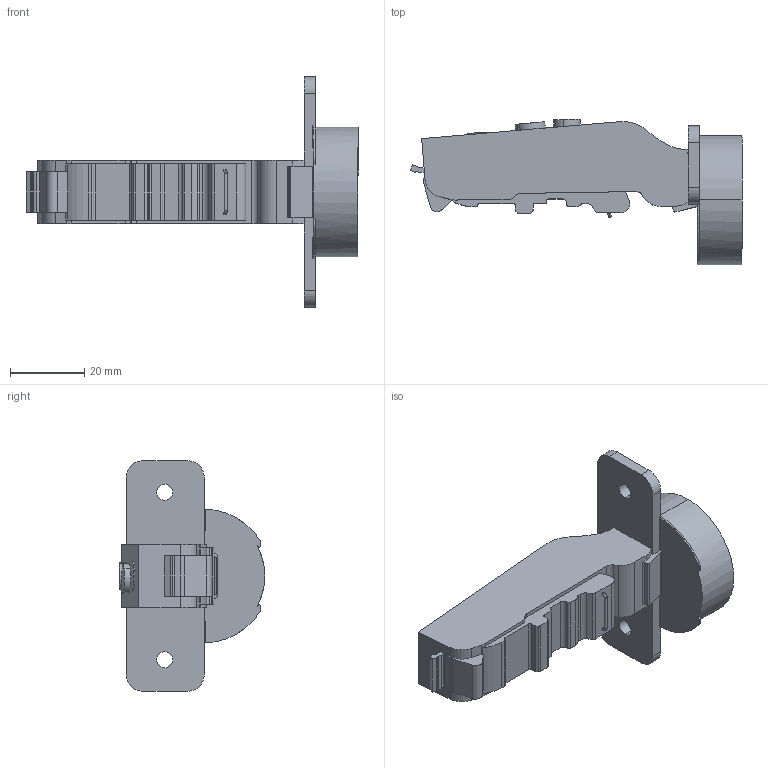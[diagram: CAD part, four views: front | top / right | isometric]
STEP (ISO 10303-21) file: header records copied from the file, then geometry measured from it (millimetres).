
FILE_DESCRIPTION (( 'STEP AP203' ), '1' );
FILE_NAME ('C81A875FAB-DTC3Dclose.STEP', '2023-06-09T05:20:36', ( 'Windows 蚚誧' ), ( '' ), 'SwSTEP 2.0', 'SolidWorks 2018', '' );
FILE_SCHEMA (( 'CONFIG_CONTROL_DESIGN' ));
Length unit declared in the file: millimetre
Products named in the file (1): C81A875FAB-DTC3Dclose
Bounding box: 89.32 x 39.16 x 62 mm (x, y, z)
Volume: 38857.3 mm3; surface area: 11097.2 mm2
Topology: 1 solids, 1 shells, 150 faces, 438 edges, 292 vertices
Faces by surface type: cylinder 75, plane 64, bspline 9, torus 2
Entity records: 5651 total; most frequent: CARTESIAN_POINT 1544, ORIENTED_EDGE 876, DIRECTION 836, EDGE_CURVE 438, VERTEX_POINT 292, AXIS2_PLACEMENT_3D 292, LINE 252, VECTOR 252
